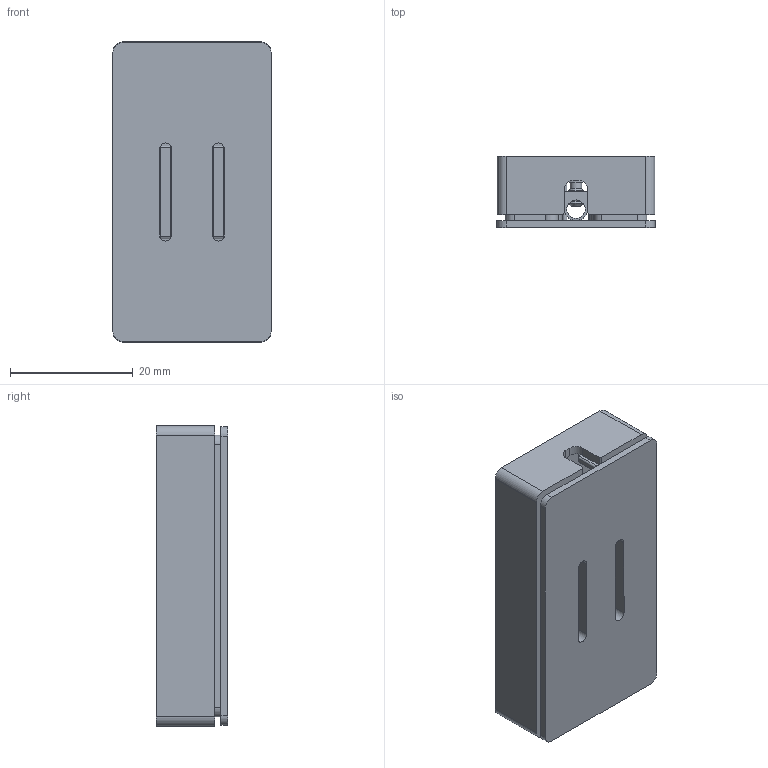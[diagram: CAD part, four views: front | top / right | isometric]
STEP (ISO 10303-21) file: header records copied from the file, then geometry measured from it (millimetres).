
FILE_DESCRIPTION (( 'STEP AP214' ), '1' );
FILE_NAME ('Conjunt PP58.STEP', '2017-12-04T12:07:32', ( 'aaa' ), ( '' ), 'SwSTEP 2.0', 'SolidWorks 2013', '' );
FILE_SCHEMA (( 'AUTOMOTIVE_DESIGN' ));
Length unit declared in the file: millimetre
Products named in the file (6): Terminal; Tapa PP58; Cos PP58; Cargol 2.5 x 4.7 PP58; Conjunt PP58; Conjunt electric
Assembly tree (8 placements, depth 3):
  Conjunt PP58
    Cos PP58
    Tapa PP58
    Conjunt electric  x3
      Terminal
      Cargol 2.5 x 4.7 PP58
Bounding box: 25.8 x 11.6 x 49 mm (x, y, z)
Volume: 7886.1 mm3; surface area: 13609.8 mm2
Topology: 11 solids, 11 shells, 402 faces, 948 edges, 588 vertices
Faces by surface type: cylinder 145, plane 143, cone 96, torus 18
Entity records: 7329 total; most frequent: CARTESIAN_POINT 1324, DIRECTION 1282, ORIENTED_EDGE 1176, EDGE_CURVE 588, AXIS2_PLACEMENT_3D 469, VERTEX_POINT 383, LINE 344, VECTOR 344
